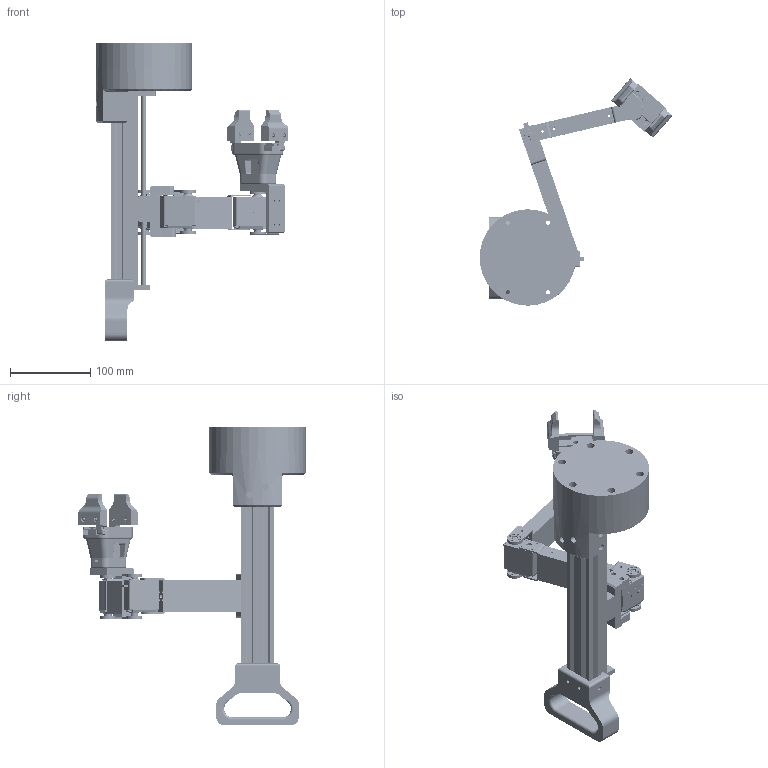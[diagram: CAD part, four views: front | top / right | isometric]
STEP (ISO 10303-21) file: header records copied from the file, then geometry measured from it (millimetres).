
FILE_DESCRIPTION(/* description */ (''),/* implementation_level */ '2;1');
FILE_NAME(/* name */ 'Assieme_scara_rds3120-AL.stp',/* time_stamp */ '2026-01-04T08:26:57+01:00',/* author */ ('R5800u'),/* organization */ (''),/* preprocessor_version */ 'ST-DEVELOPER v20',/* originating_system */ 'Autodesk Inventor 2025',/* authorisation */ '');
FILE_SCHEMA (('AUTOMOTIVE_DESIGN { 1 0 10303 214 3 1 1 }'));
Products named in the file (60): Assieme_scara_02; base1; blocco_motore1; AS 1420 - 1973 - M4 x 30; tslot 2040; Assieme_profilato; profilato; profilato_cuscinetto; profilato_motore; Nema11; 00144585; 00144585_01; 00144585_02; 00144585_03; 00144585_04; 00144585_05; 00144585_06; 00144585_07; 00144585_08; 00144585_09; 00144585_10; 00144585_11; 00144585_12; 00144585_13; 00144585_14; Actuator_MGN9; AS 1420 - 1973 - M3 x 6; Actuator_MGN9C; Carriage; maniglia; disco_120; gripper; gripper_rail_base; gripper_finger; gripper_base_plate; MG90S_assieme_disco_ldb2; MG90_ldb; scritta_MG90s; MG90S 9g Micro Servo Medium Horn 12 holes; blocco_giunto_polso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
Assembly tree (93 placements, depth 4):
  Assieme_scara_02
    base1
    blocco_motore1
    AS 1420 - 1973 - M4 x 30  x4
    tslot 2040
    Assieme_profilato
      profilato
      profilato_cuscinetto
      profilato_motore
      Nema11
      00144585
        00144585_01
        00144585_02
        00144585_03
        00144585_04
        00144585_05
        00144585_06
        00144585_07
        00144585_08
        00144585_09
        00144585_10
        00144585_11
        00144585_12
        00144585_13
        00144585_14
      Actuator_MGN9
      AS 1420 - 1973 - M3 x 6  x4
      Actuator_MGN9C
      Carriage
    maniglia
    disco_120
    gripper
      gripper_rail_base
      gripper_finger  x2
      gripper_base_plate
      MG90S_assieme_disco_ldb2
        MG90_ldb
        scritta_MG90s  x2
      MG90S 9g Micro Servo Medium Horn 12 holes
      blocco_giunto_polso
      gripper_spur_gear v2
      dito1  x2
      AS 1420 - 1973 - M3 x 10  x5
      BS 4168 - M2,5 x 10
      AS 1427 - M2 x 12
      AS 1474 - M3  x7
    Assieme_link_robot
      link1
      link2
      adattatore40x20  x4
      rds3115-3d
        ZJ-CHANG
        GE_57
        DUOPAN-SG
        DUOPAN-DG
        ZJ-DUAN
        corpo_3ds3120
      rds3115-3d_1
        ZJ-CHANG
        GE_57
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Bounding box: 240.11 x 283.36 x 372 mm (x, y, z)
Volume: 1304173.9 mm3; surface area: 454313.3 mm2
Topology: 85 solids, 89 shells, 3783 faces, 10488 edges, 7105 vertices
Faces by surface type: plane 2072, cylinder 1070, bspline 422, cone 110, torus 67, sphere 42
Full cylindrical faces by diameter (mm): 1.03 x6, 1.167 x3, 1.2 x2, 1.5 x2, 1.6 x2, 1.755 x1, 2 x3, 2.05 x4, 2.2 x49, 2.3 x4, 2.4 x8, 2.459 x13, 2.47 x1, 2.5 x104, 2.8 x4, 2.9 x4, 3 x139, 3.2 x57, 3.242 x4, 3.4 x12, 3.5 x5, 4 x5, 4.3 x6, 4.5 x5, 4.69 x1, 4.8 x1, 5 x10, 5.3 x6, 5.5 x36, 5.6 x7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
Entity records: 141526 total; most frequent: CARTESIAN_POINT 74959, ORIENTED_EDGE 13546, DIRECTION 12473, EDGE_CURVE 6773, VERTEX_POINT 4593, LINE 4305, VECTOR 4305, AXIS2_PLACEMENT_3D 4084
